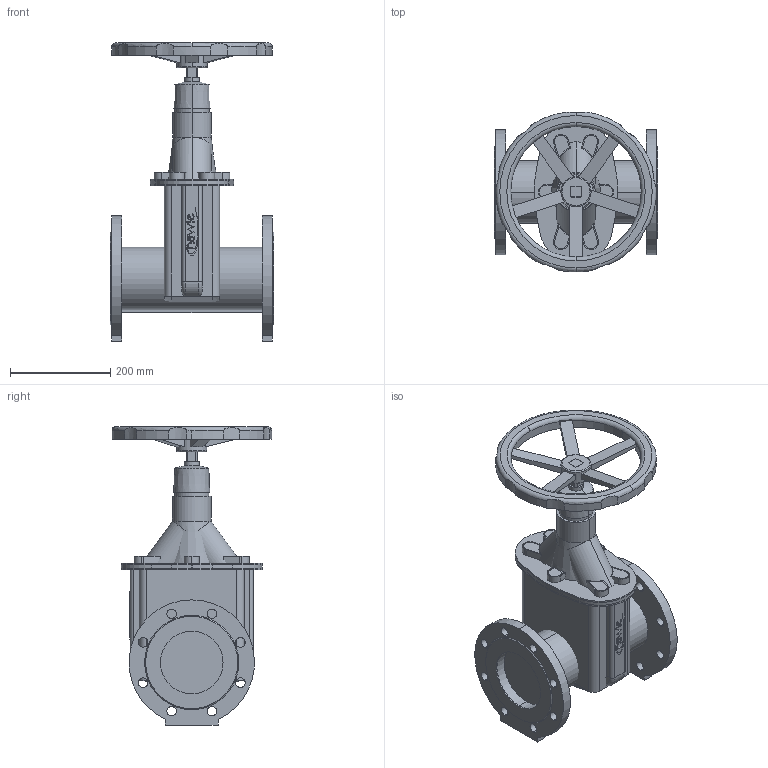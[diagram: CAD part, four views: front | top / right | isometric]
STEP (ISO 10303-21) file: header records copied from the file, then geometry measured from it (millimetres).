
FILE_DESCRIPTION(('STEP AP214'),'1');
FILE_NAME('S:/EK/USER/CAT6/3DHomepage/4700E2/4700E2-PN16-DN125-HANDRAD.STP','2012-04-23T12:25:13',(' '),(' '),'Spatial InterOp 3D',' ',' ');
FILE_SCHEMA(('automotive_design'));
Length unit declared in the file: millimetre
Products named in the file (53): 3D-Objekt
Bounding box: 325 x 318.96 x 595 mm (x, y, z)
Volume: 13146720.4 mm3; surface area: 1314299 mm2
Topology: 53 solids, 53 shells, 555 faces, 1327 edges, 886 vertices
Faces by surface type: plane 285, cylinder 244, torus 12, cone 10, bspline 4
Entity records: 22378 total; most frequent: CARTESIAN_POINT 3183, DIRECTION 3087, ORIENTED_EDGE 2654, EDGE_CURVE 1327, AXIS2_PLACEMENT_3D 1166, VERTEX_POINT 886, LINE 755, VECTOR 755
